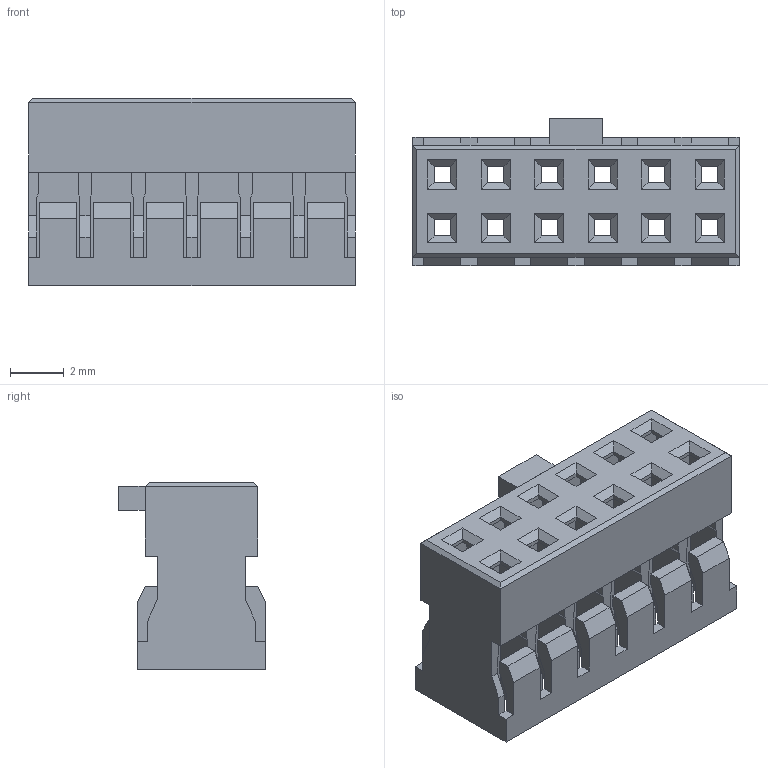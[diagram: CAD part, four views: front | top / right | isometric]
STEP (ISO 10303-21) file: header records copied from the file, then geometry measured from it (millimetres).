
FILE_DESCRIPTION((''),'2;1');
FILE_NAME('511101251','2019-07-11T',('gga'),(''),'PRO/ENGINEER BY PARAMETRIC TECHNOLOGY CORPORATION, 2016010','PRO/ENGINEER BY PARAMETRIC TECHNOLOGY CORPORATION, 2016010','');
FILE_SCHEMA(('CONFIG_CONTROL_DESIGN'));
Length unit declared in the file: millimetre
Products named in the file (1): 511101251
Bounding box: 12.2 x 5.5 x 7 mm (x, y, z)
Volume: 171.8 mm3; surface area: 812.1 mm2
Topology: 1 solids, 1 shells, 391 faces, 1098 edges, 698 vertices
Faces by surface type: plane 391
Entity records: 12334 total; most frequent: ORIENTED_EDGE 2196, CARTESIAN_POINT 2188, DIRECTION 1882, VECTOR 1098, LINE 1098, EDGE_CURVE 1098, VERTEX_POINT 698, EDGE_LOOP 428
